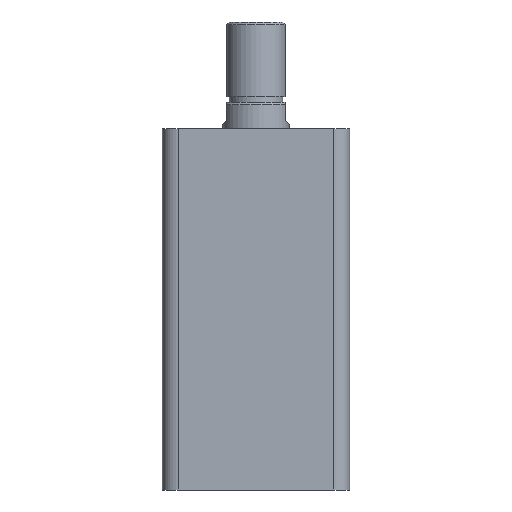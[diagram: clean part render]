
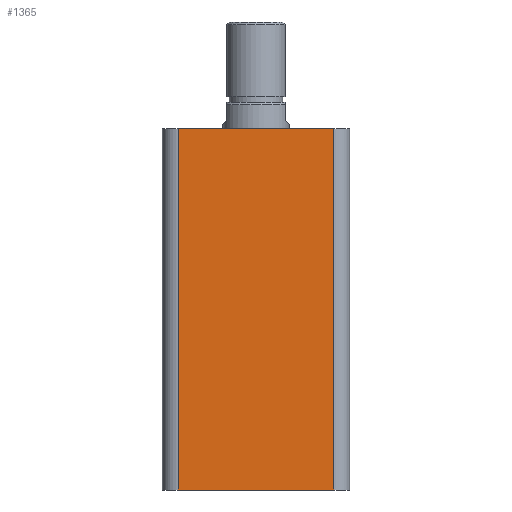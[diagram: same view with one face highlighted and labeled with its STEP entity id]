
A CAD part, front view. The second image highlights one B-rep face of the part: STEP entity #1365.
In plain terms, the highlighted planar face has unit normal (0, -1, 0).
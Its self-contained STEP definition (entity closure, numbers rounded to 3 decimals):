
#165 = EDGE_LOOP ( 'NONE', ( #322, #323, #324, #325 ) ) ;
#322 = ORIENTED_EDGE ( 'NONE', *, *, #1211, .F. ) ;
#323 = ORIENTED_EDGE ( 'NONE', *, *, #1212, .T. ) ;
#324 = ORIENTED_EDGE ( 'NONE', *, *, #1271, .T. ) ;
#325 = ORIENTED_EDGE ( 'NONE', *, *, #1272, .T. ) ;
#783 = DIRECTION ( 'NONE',  ( 0., 0., 1. ) ) ;
#784 = DIRECTION ( 'NONE',  ( 0., 1., 0. ) ) ;
#785 = PLANE ( 'NONE',  #1914 ) ;
#791 = CARTESIAN_POINT ( 'NONE',  ( -35., -35., 135. ) ) ;
#1211 = EDGE_CURVE ( 'NONE', #1510, #1443, #2294, .T. ) ;
#1212 = EDGE_CURVE ( 'NONE', #1510, #1446, #2292, .T. ) ;
#1271 = EDGE_CURVE ( 'NONE', #1446, #1449, #2207, .T. ) ;
#1272 = EDGE_CURVE ( 'NONE', #1449, #1443, #2205, .T. ) ;
#1365 = ADVANCED_FACE ( 'NONE', ( #1747 ), #785, .F. ) ;
#1443 = VERTEX_POINT ( 'NONE', #2562 ) ;
#1446 = VERTEX_POINT ( 'NONE', #2555 ) ;
#1449 = VERTEX_POINT ( 'NONE', #2557 ) ;
#1510 = VERTEX_POINT ( 'NONE', #2496 ) ;
#1747 = FACE_OUTER_BOUND ( 'NONE', #165, .T. ) ;
#1914 = AXIS2_PLACEMENT_3D ( 'NONE', #791, #784, #783 ) ;
#1963 = DIRECTION ( 'NONE',  ( 0., 0., 1. ) ) ;
#1964 = CARTESIAN_POINT ( 'NONE',  ( 29., -35., 135. ) ) ;
#1969 = CARTESIAN_POINT ( 'NONE',  ( -35., -35., 0. ) ) ;
#1972 = DIRECTION ( 'NONE',  ( 1., 0., 0. ) ) ;
#2128 = DIRECTION ( 'NONE',  ( 0., 0., -1. ) ) ;
#2130 = CARTESIAN_POINT ( 'NONE',  ( -29., -35., 135. ) ) ;
#2131 = DIRECTION ( 'NONE',  ( 1., 0., 0. ) ) ;
#2133 = CARTESIAN_POINT ( 'NONE',  ( -35., -35., 135. ) ) ;
#2202 = VECTOR ( 'NONE', #1963, 1000. ) ;
#2204 = VECTOR ( 'NONE', #1972, 1000. ) ;
#2205 = LINE ( 'NONE', #1964, #2202 ) ;
#2207 = LINE ( 'NONE', #1969, #2204 ) ;
#2289 = VECTOR ( 'NONE', #2128, 1000. ) ;
#2291 = VECTOR ( 'NONE', #2131, 1000. ) ;
#2292 = LINE ( 'NONE', #2130, #2289 ) ;
#2294 = LINE ( 'NONE', #2133, #2291 ) ;
#2496 = CARTESIAN_POINT ( 'NONE',  ( -29., -35., 135. ) ) ;
#2555 = CARTESIAN_POINT ( 'NONE',  ( -29., -35., 0. ) ) ;
#2557 = CARTESIAN_POINT ( 'NONE',  ( 29., -35., 0. ) ) ;
#2562 = CARTESIAN_POINT ( 'NONE',  ( 29., -35., 135. ) ) ;
